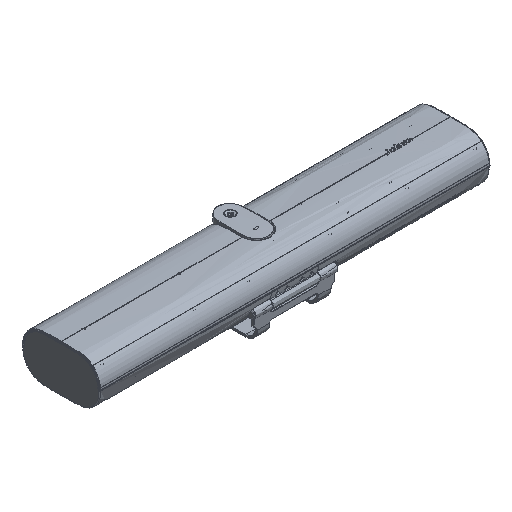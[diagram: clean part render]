
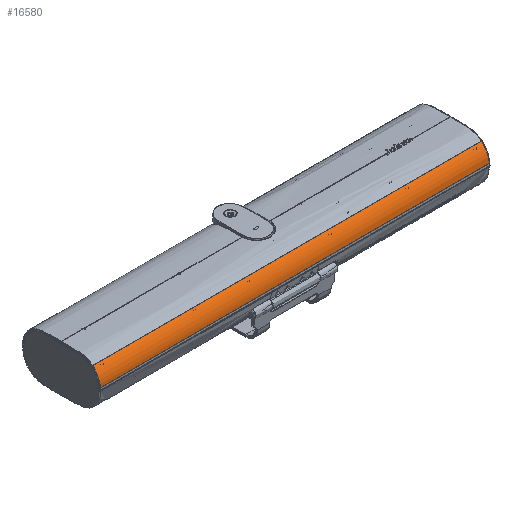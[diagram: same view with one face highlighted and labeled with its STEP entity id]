
A CAD part, isometric view. The second image highlights one B-rep face of the part: STEP entity #16580.
In plain terms, the highlighted cylindrical face has radius 30.5 mm (diameter 61 mm), a partial arc.
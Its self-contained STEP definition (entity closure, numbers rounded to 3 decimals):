
#7945=(
BOUNDED_CURVE()
B_SPLINE_CURVE(2,(#347584,#347585,#347586),.UNSPECIFIED.,.F.,.F.)
B_SPLINE_CURVE_WITH_KNOTS((3,3),(-183.867,-160.618),
 .UNSPECIFIED.)
CURVE()
GEOMETRIC_REPRESENTATION_ITEM()
RATIONAL_B_SPLINE_CURVE((1.,0.923,1.))
REPRESENTATION_ITEM('')
);
#7946=(
BOUNDED_CURVE()
B_SPLINE_CURVE(2,(#347587,#347588,#347589),.UNSPECIFIED.,.F.,.F.)
B_SPLINE_CURVE_WITH_KNOTS((3,3),(-24.118,0.),.UNSPECIFIED.)
CURVE()
GEOMETRIC_REPRESENTATION_ITEM()
RATIONAL_B_SPLINE_CURVE((1.,0.923,1.))
REPRESENTATION_ITEM('')
);
#10303=CYLINDRICAL_SURFACE('',#137807,30.5);
#16580=ADVANCED_FACE('',(#23665),#10303,.T.);
#23665=FACE_OUTER_BOUND('',#31624,.T.);
#31624=EDGE_LOOP('',(#65720,#65721,#65722,#65723));
#65720=ORIENTED_EDGE('',*,*,#92805,.T.);
#65721=ORIENTED_EDGE('',*,*,#92408,.F.);
#65722=ORIENTED_EDGE('',*,*,#92804,.T.);
#65723=ORIENTED_EDGE('',*,*,#92527,.F.);
#92408=EDGE_CURVE('',#128630,#128632,#111628,.T.);
#92527=EDGE_CURVE('',#128773,#128772,#111728,.T.);
#92804=EDGE_CURVE('',#128630,#128772,#7945,.T.);
#92805=EDGE_CURVE('',#128773,#128632,#7946,.T.);
#111628=B_SPLINE_CURVE_WITH_KNOTS('',1,(#345934,#345935),.UNSPECIFIED.,
 .F.,.F.,(2,2),(-526.8,0.),.UNSPECIFIED.);
#111728=B_SPLINE_CURVE_WITH_KNOTS('',1,(#346534,#346535),.UNSPECIFIED.,
 .F.,.F.,(2,2),(-526.8,0.),.UNSPECIFIED.);
#128630=VERTEX_POINT('',#344248);
#128632=VERTEX_POINT('',#344250);
#128772=VERTEX_POINT('',#344390);
#128773=VERTEX_POINT('',#344391);
#137807=AXIS2_PLACEMENT_3D('',#339554,#142164,$);
#142164=DIRECTION('',(1.,0.,0.));
#339554=CARTESIAN_POINT('',(0.,-22.5,3.5));
#344248=CARTESIAN_POINT('',(263.4,-52.926,5.628));
#344250=CARTESIAN_POINT('',(-263.4,-52.926,5.628));
#344390=CARTESIAN_POINT('',(263.4,-42.386,26.626));
#344391=CARTESIAN_POINT('',(-263.4,-42.386,26.626));
#345934=CARTESIAN_POINT('',(263.4,-52.926,5.628));
#345935=CARTESIAN_POINT('',(-263.4,-52.926,5.628));
#346534=CARTESIAN_POINT('',(-263.4,-42.386,26.626));
#346535=CARTESIAN_POINT('',(263.4,-42.386,26.626));
#347584=CARTESIAN_POINT('',(263.4,-52.926,5.628));
#347585=CARTESIAN_POINT('',(263.4,-52.038,18.326));
#347586=CARTESIAN_POINT('',(263.4,-42.386,26.626));
#347587=CARTESIAN_POINT('',(-263.4,-42.386,26.626));
#347588=CARTESIAN_POINT('',(-263.4,-52.038,18.326));
#347589=CARTESIAN_POINT('',(-263.4,-52.926,5.628));
